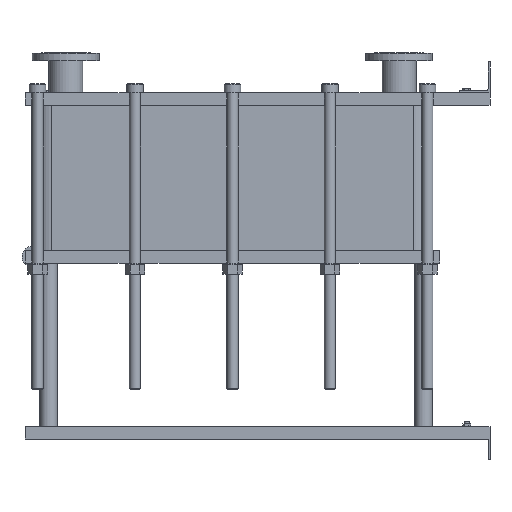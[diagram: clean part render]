
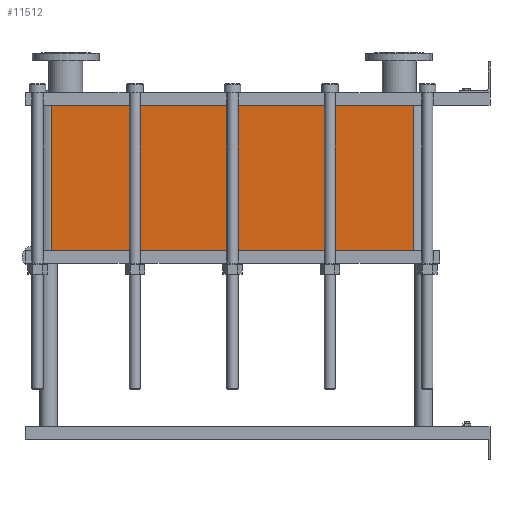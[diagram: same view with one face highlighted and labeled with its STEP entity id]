
A CAD part, left-side view. The second image highlights one B-rep face of the part: STEP entity #11512.
In plain terms, the highlighted planar face has unit normal (-1, 0, 0).
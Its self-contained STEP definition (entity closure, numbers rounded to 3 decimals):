
#1129=LINE('',#23232,#2102);
#1130=LINE('',#23236,#2103);
#1131=LINE('',#23238,#2104);
#1132=LINE('',#23239,#2105);
#2102=VECTOR('',#15887,10.);
#2103=VECTOR('',#15892,10.);
#2104=VECTOR('',#15893,10.);
#2105=VECTOR('',#15894,10.);
#3267=FACE_OUTER_BOUND('',#4093,.T.);
#4093=EDGE_LOOP('',(#10103,#10104,#10105,#10106));
#5642=VERTEX_POINT('',#23229);
#5643=VERTEX_POINT('',#23231);
#5644=VERTEX_POINT('',#23235);
#5645=VERTEX_POINT('',#23237);
#7159=EDGE_CURVE('',#5643,#5642,#1129,.T.);
#7161=EDGE_CURVE('',#5642,#5644,#1130,.T.);
#7162=EDGE_CURVE('',#5645,#5644,#1131,.T.);
#7163=EDGE_CURVE('',#5645,#5643,#1132,.T.);
#10103=ORIENTED_EDGE('',*,*,#7161,.T.);
#10104=ORIENTED_EDGE('',*,*,#7162,.F.);
#10105=ORIENTED_EDGE('',*,*,#7163,.T.);
#10106=ORIENTED_EDGE('',*,*,#7159,.T.);
#10857=PLANE('',#12751);
#11512=ADVANCED_FACE('',(#3267),#10857,.T.);
#12751=AXIS2_PLACEMENT_3D('',#23234,#15890,#15891);
#15887=DIRECTION('',(0.,0.,-1.));
#15890=DIRECTION('center_axis',(-1.,0.,0.));
#15891=DIRECTION('ref_axis',(0.,1.,0.));
#15892=DIRECTION('',(0.,-1.,0.));
#15893=DIRECTION('',(0.,0.,-1.));
#15894=DIRECTION('',(0.,1.,0.));
#23229=CARTESIAN_POINT('',(-200.,1414.,-469.2));
#23231=CARTESIAN_POINT('',(-200.,1414.,0.));
#23232=CARTESIAN_POINT('',(-200.,1414.,0.));
#23234=CARTESIAN_POINT('Origin',(-200.,248.,0.));
#23235=CARTESIAN_POINT('',(-200.,248.,-469.2));
#23236=CARTESIAN_POINT('',(-200.,539.5,-469.2));
#23237=CARTESIAN_POINT('',(-200.,248.,0.));
#23238=CARTESIAN_POINT('',(-200.,248.,0.));
#23239=CARTESIAN_POINT('',(-200.,248.,0.));
